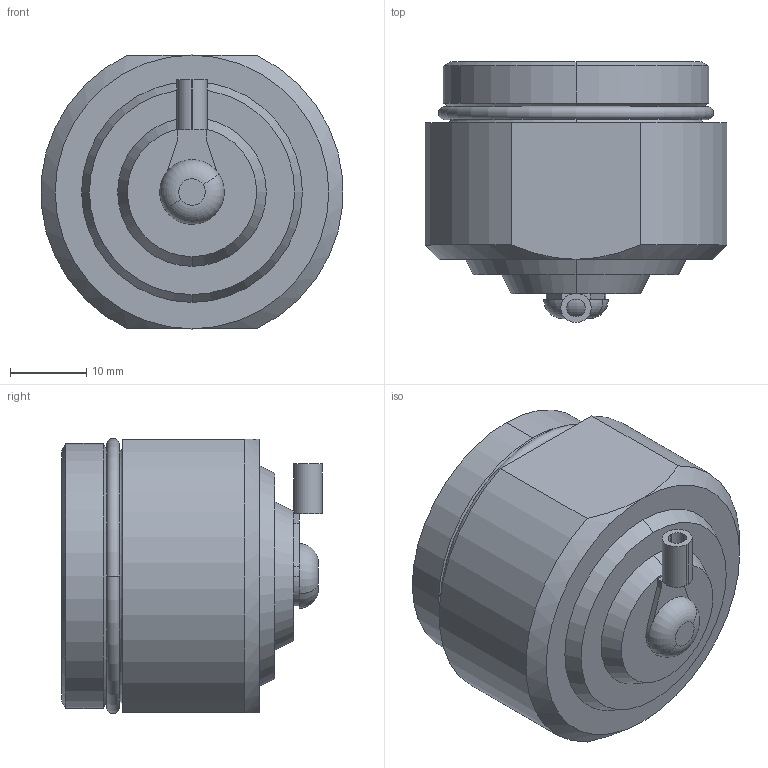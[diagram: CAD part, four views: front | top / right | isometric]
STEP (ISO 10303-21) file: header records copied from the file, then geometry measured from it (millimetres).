
FILE_DESCRIPTION (( 'STEP AP203' ), '1' );
FILE_NAME ('GSD-CC.step', '2014-11-25T14:36:54', ( 'Turck User' ), ( '' ), 'SwSTEP 2.0', 'SolidWorks 2014', '' );
FILE_SCHEMA (( 'CONFIG_CONTROL_DESIGN' ));
Length unit declared in the file: millimetre
Products named in the file (2): GSD-CC
Bounding box: 39.65 x 34.28 x 36.2 mm (x, y, z)
Volume: 17599.1 mm3; surface area: 8070.1 mm2
Topology: 1 solids, 2 shells, 65 faces, 160 edges, 102 vertices
Faces by surface type: plane 26, cylinder 23, cone 10, torus 6
Entity records: 2097 total; most frequent: DIRECTION 368, CARTESIAN_POINT 337, ORIENTED_EDGE 320, EDGE_CURVE 160, AXIS2_PLACEMENT_3D 145, VERTEX_POINT 102, VECTOR 78, CIRCLE 78
